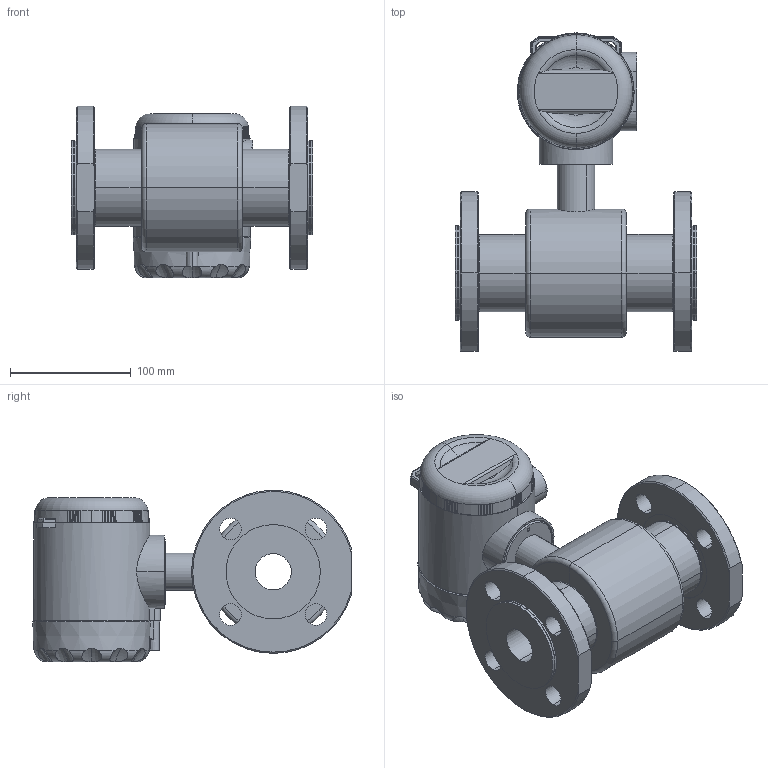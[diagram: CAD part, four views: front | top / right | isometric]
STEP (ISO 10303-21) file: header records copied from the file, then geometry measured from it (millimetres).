
FILE_DESCRIPTION (( 'STEP AP214' ), '1' );
FILE_NAME ('ﾏ頸褞ⅴ ﾏﾐﾎ32.STEP', '2021-07-23T12:48:40', ( '' ), ( '' ), 'SwSTEP 2.0', 'SolidWorks 2016', '' );
FILE_SCHEMA (( 'AUTOMOTIVE_DESIGN' ));
Length unit declared in the file: millimetre
Products named in the file (1): ﾏ頸褞ⅴ ﾏﾐﾎ32
Bounding box: 200 x 263.34 x 141.98 mm (x, y, z)
Surface area: 234491.7 mm2 (no closed solid volume)
Topology: 0 solids, 20 shells, 466 faces, 1519 edges, 1035 vertices
Faces by surface type: plane 170, cylinder 117, cone 113, torus 55, bspline 8, sphere 3
Entity records: 23747 total; most frequent: CARTESIAN_POINT 5536, DIRECTION 2889, ORIENTED_EDGE 2364, EDGE_CURVE 1516, AXIS2_PLACEMENT_3D 1108, VERTEX_POINT 1035, VECTOR 673, LINE 673
